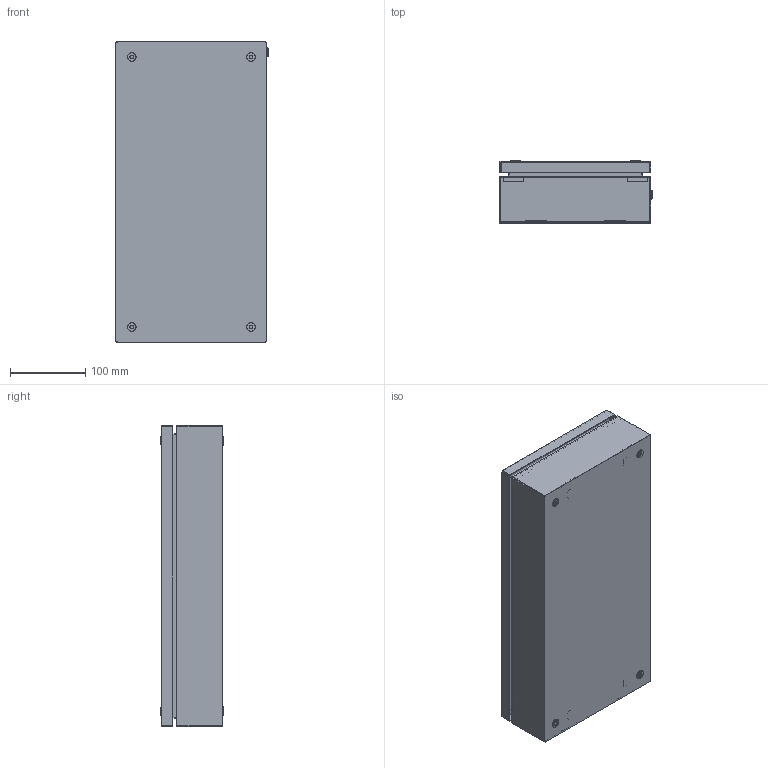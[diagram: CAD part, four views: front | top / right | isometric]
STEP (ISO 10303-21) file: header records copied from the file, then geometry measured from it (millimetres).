
FILE_DESCRIPTION(('Open CASCADE Model'),'2;1');
FILE_NAME('Open CASCADE Shape Model','2025-11-18T11:38:32',('Author'),( 'Open CASCADE'),'Open CASCADE STEP processor 7.8','Open CASCADE 7.8' ,'Unknown');
FILE_SCHEMA(('AUTOMOTIVE_DESIGN { 1 0 10303 214 1 1 1 1 }'));
Length unit declared in the file: millimetre
Products named in the file (18): Compound1; Compound2; Compound3; Compound4; Solid1; Solid2; Solid3; Solid4; Solid5; Solid6; Compound5; Compound6; Solid7; Solid8; Solid9; Solid10; Solid11; Solid12
Assembly tree (33 placements, depth 5):
  Compound1
    Compound2
      Compound3
        Compound4
          Solid1
          Solid2  x2
          Solid3  x2
          Solid4  x2
          Solid5
        Solid6
      Compound5
        Compound6
          Solid7
          Solid5
        Solid8
      Solid9  x4
      Solid10  x4
      Solid11  x4
    Solid12  x4
Bounding box: 201.5 x 83.79 x 400 mm (x, y, z)
Volume: 476953.2 mm3; surface area: 666071.1 mm2
Topology: 28 solids, 28 shells, 934 faces, 2505 edges, 1656 vertices
Faces by surface type: plane 673, cylinder 135, cone 48, bspline 40, torus 30, sphere 8
Full cylindrical faces by diameter (mm): 4 x14, 4.134 x4, 5 x9, 5.2 x4, 5.3 x4, 5.5 x4, 6 x2, 6.5 x4, 7.5 x6, 7.8 x4, 8 x4, 8.5 x5, 9 x1, 9.1 x1, 11.5 x4, 12 x1, 13.5 x4, 15.791 x4
Entity records: 15974 total; most frequent: CARTESIAN_POINT 4907, ORIENTED_EDGE 2324, DIRECTION 2072, EDGE_CURVE 1162, VERTEX_POINT 768, LINE 758, VECTOR 758, AXIS2_PLACEMENT_3D 657
